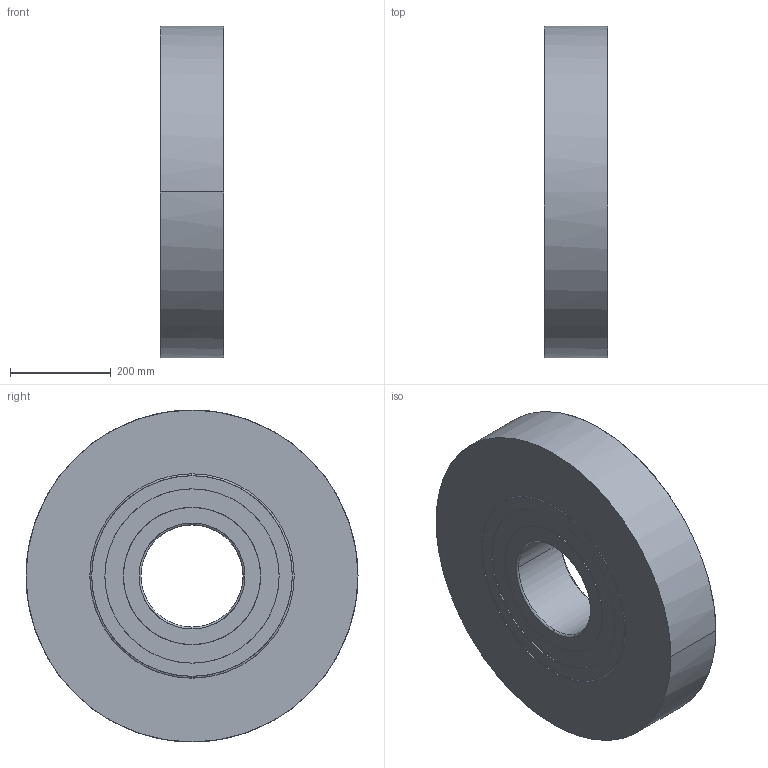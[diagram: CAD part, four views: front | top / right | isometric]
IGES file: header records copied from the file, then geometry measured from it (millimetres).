
Global section: native system: Kubotek KeyCreator; preprocessor: KCM Version 1.1.1442.0; author: KeyCreator User; organization: Self; date: 20170714.090848; units: inch
Bounding box: 127 x 660.4 x 660.4 mm (x, y, z)
Surface area: 988048.1 mm2 (no closed solid volume)
Topology: 0 solids, 0 shells, 32 faces, 208 edges, 208 vertices
Faces by surface type: bspline 32
